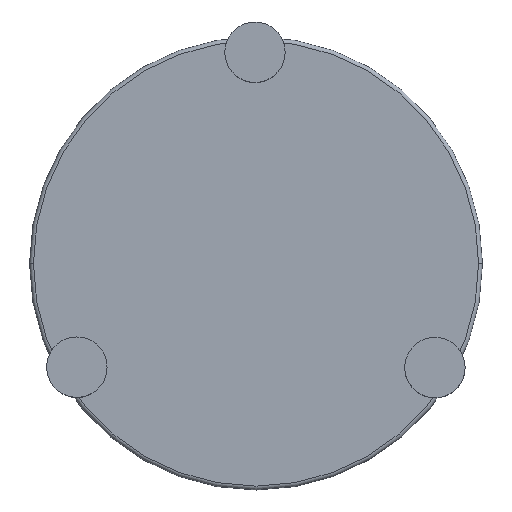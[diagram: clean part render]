
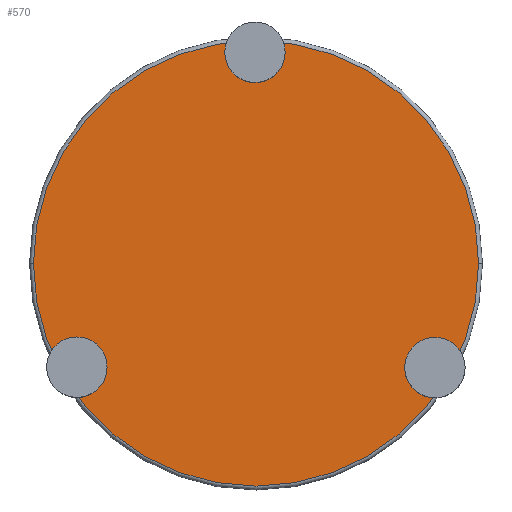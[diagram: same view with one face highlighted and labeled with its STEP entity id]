
A CAD part, top view. The second image highlights one B-rep face of the part: STEP entity #570.
In plain terms, the highlighted planar face has unit normal (0, 0, 1).
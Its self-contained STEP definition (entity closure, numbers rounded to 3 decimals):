
#39 = AXIS2_PLACEMENT_3D ( 'NONE', #788, #519, #411 ) ;
#120 = CIRCLE ( 'NONE', #564, 516. ) ;
#158 = ORIENTED_EDGE ( 'NONE', *, *, #466, .T. ) ;
#169 = FACE_OUTER_BOUND ( 'NONE', #480, .T. ) ;
#235 = DIRECTION ( 'NONE',  ( 1., 0., 0. ) ) ;
#300 = DIRECTION ( 'NONE',  ( 0., 0., 1. ) ) ;
#370 = CARTESIAN_POINT ( 'NONE',  ( -266.12, 33.598, 18. ) ) ;
#411 = DIRECTION ( 'NONE',  ( 1., 0., 0. ) ) ;
#424 = PLANE ( 'NONE',  #668 ) ;
#445 = VERTEX_POINT ( 'NONE', #657 ) ;
#466 = EDGE_CURVE ( 'NONE', #650, #445, #747, .T. ) ;
#480 = EDGE_LOOP ( 'NONE', ( #695, #158 ) ) ;
#519 = DIRECTION ( 'NONE',  ( 0., 0., 1. ) ) ;
#554 = EDGE_CURVE ( 'NONE', #445, #650, #120, .T. ) ;
#556 = DIRECTION ( 'NONE',  ( 0., 0., 1. ) ) ;
#564 = AXIS2_PLACEMENT_3D ( 'NONE', #370, #556, #235 ) ;
#570 = ADVANCED_FACE ( 'NONE', ( #169 ), #424, .T. ) ;
#593 = DIRECTION ( 'NONE',  ( 1., 0., 0. ) ) ;
#650 = VERTEX_POINT ( 'NONE', #664 ) ;
#657 = CARTESIAN_POINT ( 'NONE',  ( 249.88, 33.598, 18. ) ) ;
#664 = CARTESIAN_POINT ( 'NONE',  ( -782.12, 33.598, 18. ) ) ;
#668 = AXIS2_PLACEMENT_3D ( 'NONE', #726, #300, #593 ) ;
#695 = ORIENTED_EDGE ( 'NONE', *, *, #554, .T. ) ;
#726 = CARTESIAN_POINT ( 'NONE',  ( -266.12, 33.598, 18. ) ) ;
#747 = CIRCLE ( 'NONE', #39, 516. ) ;
#788 = CARTESIAN_POINT ( 'NONE',  ( -266.12, 33.598, 18. ) ) ;
